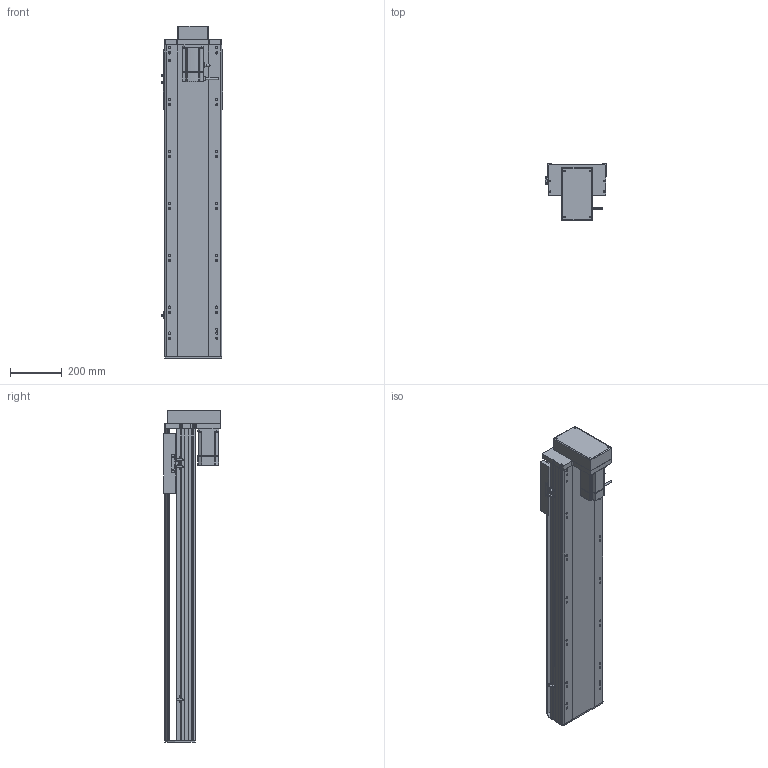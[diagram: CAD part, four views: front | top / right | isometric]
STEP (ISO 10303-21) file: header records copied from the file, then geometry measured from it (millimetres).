
FILE_DESCRIPTION (( 'STEP AP214' ), '1' );
FILE_NAME ('RTH22-XX-900-M-M75-C4.STEP', '2025-10-24T11:10:22', ( 'Microsoft' ), ( 'Microsoft' ), 'SwSTEP 2.0', 'SolidWorks 2018', '' );
FILE_SCHEMA (( 'AUTOMOTIVE_DESIGN' ));
Length unit declared in the file: millimetre
Products named in the file (10): N_OMRON EE-SX672 传感器^RTH22-XX-XX-M-M75-C4; N_RTH22-M-018裔赽^RTH22-XX-XX-M-M75-C4; N_750W萇儂^RTH22-XX-XX-M-M75-C4; N_RTH22-L-004-SFS25賑釱^RTH22-XX-XX-M-M75-C4; N_RTH22-M-007奻裔^RTH22-XX-XX-M-M75-C4; N_RTH22-M-008-P75萇儂啣^RTH22-XX-XX-M-M75-C4; N_RTH22-L-011菁釱^RTH22-XX-XX-M-M75-C4; N_RTH22-GY-001耜裔^RTH22-XX-XX-M-M75-C4; RTH22-XX-900-M-M75-C4; N_RTH22-GY-013外置感应片^RTH22-XX-XX-M-M75-C4
Assembly tree (11 placements, depth 2):
  RTH22-XX-900-M-M75-C4
    N_RTH22-L-011菁釱^RTH22-XX-XX-M-M75-C4
    N_RTH22-GY-001耜裔^RTH22-XX-XX-M-M75-C4
    N_750W萇儂^RTH22-XX-XX-M-M75-C4
    N_RTH22-M-008-P75萇儂啣^RTH22-XX-XX-M-M75-C4
    N_RTH22-M-007奻裔^RTH22-XX-XX-M-M75-C4
    N_RTH22-M-018裔赽^RTH22-XX-XX-M-M75-C4
    N_OMRON EE-SX672 传感器^RTH22-XX-XX-M-M75-C4  x3
    N_RTH22-GY-013外置感应片^RTH22-XX-XX-M-M75-C4
    N_RTH22-L-004-SFS25賑釱^RTH22-XX-XX-M-M75-C4
Bounding box: 238.5 x 218.5 x 1279.7 mm (x, y, z)
Volume: 17667620 mm3; surface area: 1950987.7 mm2
Topology: 11 solids, 11 shells, 1623 faces, 4430 edges, 2855 vertices
Faces by surface type: plane 807, cylinder 475, bspline 279, cone 62
Entity records: 40999 total; most frequent: CARTESIAN_POINT 12364, ORIENTED_EDGE 5828, DIRECTION 5508, EDGE_CURVE 2914, VERTEX_POINT 1891, AXIS2_PLACEMENT_3D 1851, LINE 1806, VECTOR 1806
